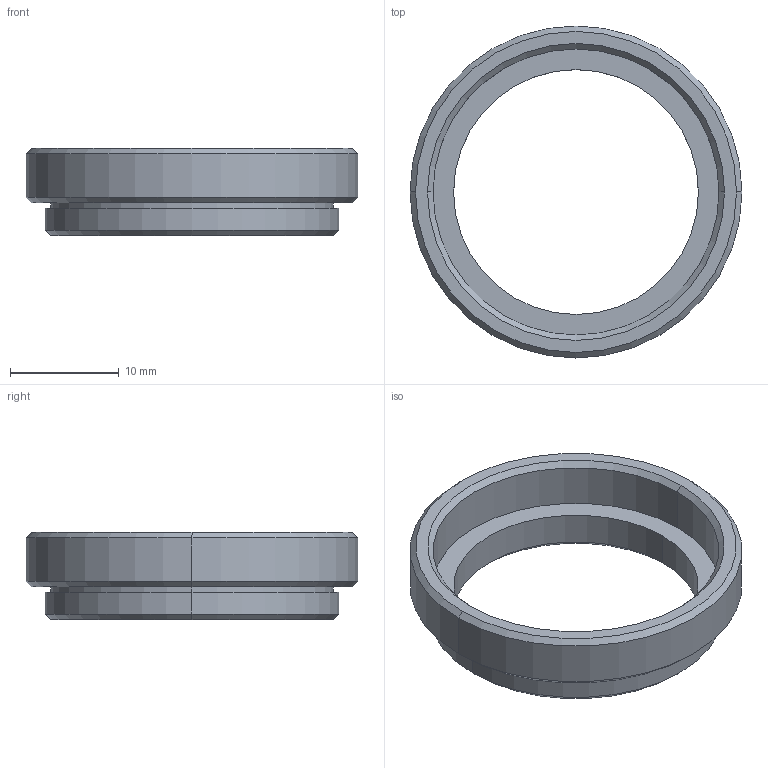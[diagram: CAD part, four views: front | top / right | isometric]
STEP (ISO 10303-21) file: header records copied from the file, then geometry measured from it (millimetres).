
FILE_DESCRIPTION (( 'STEP AP203' ), '1' );
FILE_NAME ('M27ES1I-5.STEP', '2017-01-05T10:45:10', ( 'user' ), ( '' ), 'SwSTEP 2.0', 'SolidWorks 2012', '' );
FILE_SCHEMA (( 'CONFIG_CONTROL_DESIGN' ));
Length unit declared in the file: millimetre
Products named in the file (1): M27ES1I-5
Bounding box: 30.5 x 30.5 x 8 mm (x, y, z)
Volume: 1461.9 mm3; surface area: 1974.1 mm2
Topology: 1 solids, 1 shells, 25 faces, 50 edges, 30 vertices
Faces by surface type: cone 10, cylinder 10, plane 5
Entity records: 735 total; most frequent: DIRECTION 132, CARTESIAN_POINT 106, ORIENTED_EDGE 100, AXIS2_PLACEMENT_3D 56, EDGE_CURVE 50, VERTEX_POINT 30, EDGE_LOOP 30, CIRCLE 30
